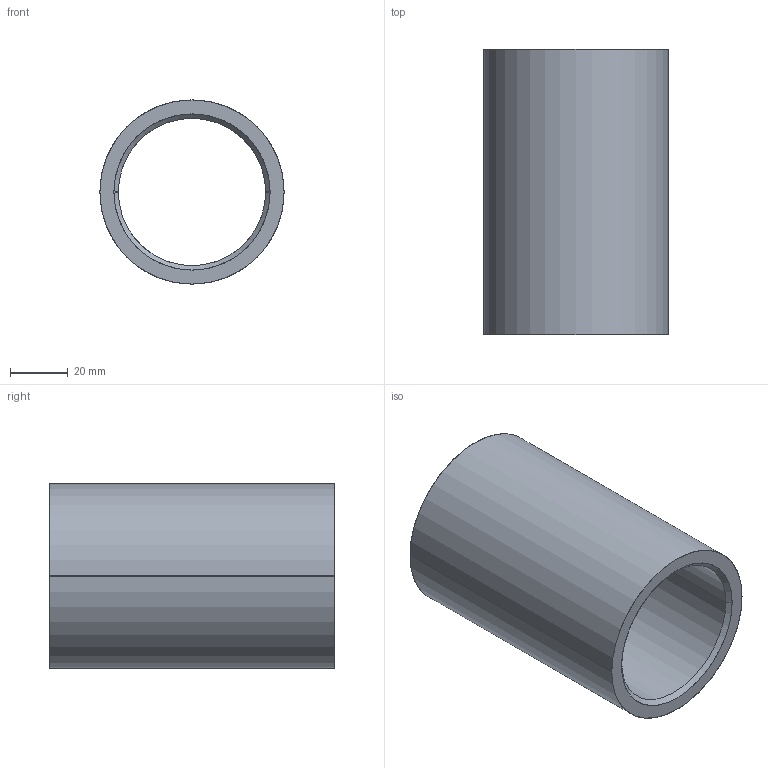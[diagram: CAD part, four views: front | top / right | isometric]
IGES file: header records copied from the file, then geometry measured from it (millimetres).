
Start section: SolidWorks IGES file using analytic representation for surfaces
Global section: file name: C:\Users\Ryan\Documents\PCS\Straight Bushings-Bronzed Plated\STB 16-37.igs; native system: SolidWorks 2009; preprocessor: SolidWorks 2009; author: Ryan; date: 140329.161912; units: inch
Bounding box: 63.51 x 98.42 x 63.51 mm (x, y, z)
Surface area: 37385.1 mm2 (no closed solid volume)
Topology: 0 solids, 0 shells, 10 faces, 288 edges, 288 vertices
Faces by surface type: revolution 6, bspline 4
